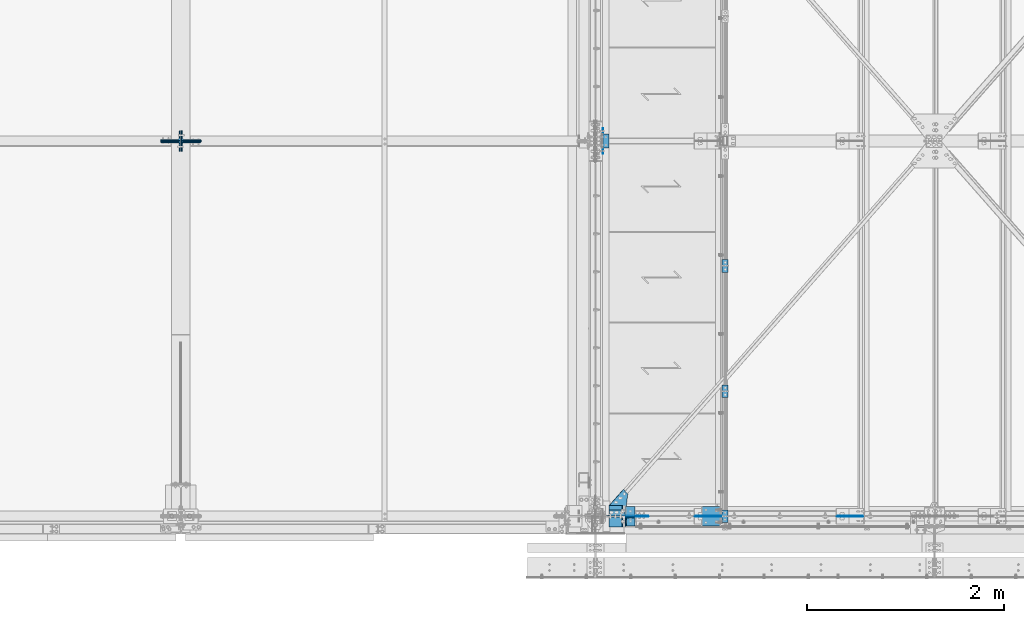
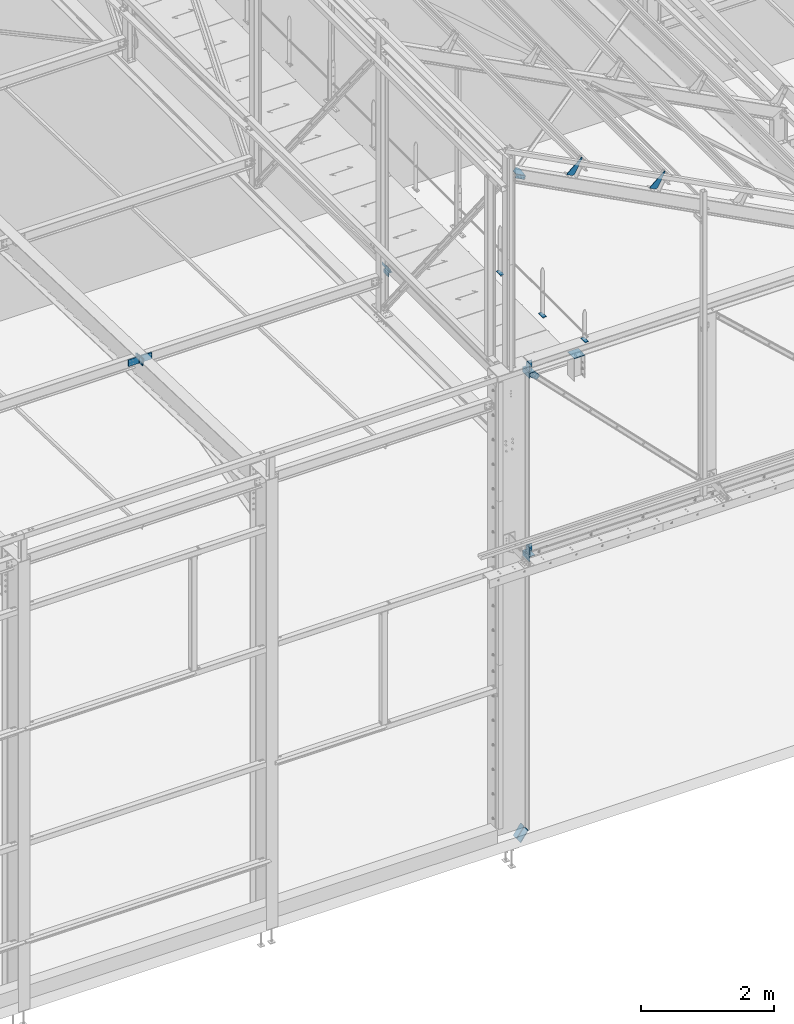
# One storey, part 70 of 362: 14 beams, 7 members, 17 elements without a shape of their own.
"""IFC2X3 building model written with IfcOpenShell, lengths in millimetres."""

from ifc_helpers import new_model, si_unit, frame, origin_with_axes, origin_2d_with_axis, place, context, subcontext, project, spatial, polyline, rectangle, l_section, outline, extrude, boolean, material, type_object, element, aggregate, save


model = new_model("IFC2X3")

# Units and contexts
model_context = context("Model", 3, precision=1e-05, world=origin_with_axes())
body_context = subcontext(model_context, "Body", "Model", "MODEL_VIEW")
ifc_project = project(units=[si_unit("LENGTHUNIT", "METRE", prefix="MILLI"), si_unit("AREAUNIT", "SQUARE_METRE"), si_unit("VOLUMEUNIT", "CUBIC_METRE"), si_unit("MASSUNIT", "GRAM", prefix="KILO"), si_unit("TIMEUNIT", "SECOND"), si_unit("PLANEANGLEUNIT", "RADIAN"), si_unit("SOLIDANGLEUNIT", "STERADIAN"), si_unit("THERMODYNAMICTEMPERATUREUNIT", "DEGREE_CELSIUS"), si_unit("LUMINOUSINTENSITYUNIT", "LUMEN")], contexts=[model_context])

# Site, building, storey
site_placement = place(None, origin_with_axes())
site = spatial("IfcSite", under=ifc_project, at=site_placement, Name="Undefined", CompositionType="ELEMENT")
building_placement = place(site_placement, origin_with_axes())
building = spatial("IfcBuilding", under=site, at=building_placement, Name="Undefined", CompositionType="ELEMENT")
storey_placement = place(building_placement, origin_with_axes())
storey = spatial("IfcBuildingStorey", under=building, at=storey_placement, Name="Undefined", CompositionType="ELEMENT", Elevation=0.0)

# Assembly, beams
assembly_1_placement = place(storey_placement, origin_with_axes())
assembly_1 = element("IfcElementAssembly", 1, at=assembly_1_placement, inside=storey, Name="MAIN COURANTE", AssemblyPlace="NOTDEFINED", PredefinedType="NOTDEFINED")
ifc_material = material(Name="Undefined/S235-E24")
beam_type_1 = type_object("IfcBeamType", Name="PL10*60", PredefinedType="NOTDEFINED")
beam_1_placement = place(assembly_1_placement, frame((13993.9998836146, 65.0000000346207, 8555.00000819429), z_axis=(-1.0, 0.0, 0.0), x_axis=(0.0, -1.0, 0.0)))
beam_1 = element("IfcBeam", 2, at=beam_1_placement, type_object=beam_type_1, material=ifc_material, Name="PLATINE", ObjectType="PL10*60", context=body_context, shape_type="SweptSolid", body=[
    extrude(rectangle(XDim=10.0, YDim=60.0, at=origin_2d_with_axis()), frame((130.0, 0.0, 0.0), z_axis=(-1.0, 0.0, 0.0), x_axis=(0.0, -1.0, 0.0)), (0.0, 0.0, 1.0), 130.0),
])
beam_2_placement = place(assembly_1_placement, frame((13993.9998836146, 1330.00344717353, 8245.00000819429), z_axis=(-1.0, 0.0, 0.0), x_axis=(0.0, -1.0, 0.0)))
beam_2 = element("IfcBeam", 3, at=beam_2_placement, type_object=beam_type_1, material=ifc_material, Name="PLATINE", ObjectType="PL10*60", context=body_context, shape_type="SweptSolid", body=[
    extrude(rectangle(XDim=10.0, YDim=60.0, at=origin_2d_with_axis()), frame((130.0, 0.0, 0.0), z_axis=(-1.0, 0.0, 0.0), x_axis=(0.0, -1.0, 0.0)), (0.0, 0.0, 1.0), 130.0),
])
beam_3_placement = place(assembly_1_placement, frame((13993.9998846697, 2600.00344717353, 8245.00000732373), z_axis=(-1.0, 0.0, 0.0), x_axis=(0.0, -1.0, 0.0)))
beam_3 = element("IfcBeam", 4, at=beam_3_placement, type_object=beam_type_1, material=ifc_material, Name="PLATINE", ObjectType="PL10*60", context=body_context, shape_type="SweptSolid", body=[
    extrude(rectangle(XDim=10.0, YDim=60.0, at=origin_2d_with_axis()), frame((130.0, 0.0, 0.0), z_axis=(-1.0, 0.0, 0.0), x_axis=(0.0, -1.0, 0.0)), (0.0, 0.0, 1.0), 130.0),
])
aggregate(assembly_1, [beam_1, beam_2, beam_3])

# Assembly, beam
assembly_2_placement = place(storey_placement, origin_with_axes())
assembly_2 = element("IfcElementAssembly", 5, at=assembly_2_placement, inside=storey, Name="MONTANT", AssemblyPlace="NOTDEFINED", PredefinedType="NOTDEFINED")
beam_type_2 = type_object("IfcBeamType", Name="PL10*200", PredefinedType="NOTDEFINED")
beam_4_placement = place(assembly_2_placement, frame((13756.4998860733, 0.0, 8354.99525915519), z_axis=(0.0, -1.0, 0.0), x_axis=(1.0, 0.0, 0.0)))
beam_4 = element("IfcBeam", 6, at=beam_4_placement, type_object=beam_type_2, material=ifc_material, Name="PLATINE", ObjectType="PL10*200", context=body_context, shape_type="SweptSolid", body=[
    extrude(rectangle(XDim=10.0, YDim=200.0, at=origin_2d_with_axis()), frame((190.0, 0.0, 0.0), z_axis=(-1.0, 0.0, 0.0), x_axis=(0.0, -1.0, 0.0)), (0.0, 0.0, 1.0), 190.0),
])
aggregate(assembly_2, [beam_4])

assembly_3_placement = place(storey_placement, origin_with_axes())
assembly_3 = element("IfcElementAssembly", 7, at=assembly_3_placement, inside=storey, AssemblyPlace="NOTDEFINED", PredefinedType="NOTDEFINED")
beam_type_3 = type_object("IfcBeamType", Name="L70*7", PredefinedType="NOTDEFINED")
beam_5_placement = place(assembly_3_placement, frame((12781.5082861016, 3730.0, 7915.0), z_axis=(1.0, 0.0, 0.0), x_axis=(0.0, 1.0, 0.0)))
beam_5 = element("IfcBeam", 8, at=beam_5_placement, type_object=beam_type_3, material=ifc_material, Name="ATTACHE", ObjectType="L70*7", context=body_context, shape_type="SweptSolid", body=[
    extrude(l_section(Depth=70.0, Width=70.0, Thickness=7.0, FilletRadius=9.0, EdgeRadius=4.5, at=origin_2d_with_axis()), frame((140.0, 0.0, 0.0), z_axis=(-1.0, 0.0, 0.0), x_axis=(0.0, -1.0, 0.0)), (0.0, 0.0, 1.0), 140.0),
])
aggregate(assembly_3, [beam_5])

assembly_4_placement = place(storey_placement, origin_with_axes())
assembly_4 = element("IfcElementAssembly", 9, at=assembly_4_placement, inside=storey, AssemblyPlace="NOTDEFINED", PredefinedType="NOTDEFINED")
beam_type_4 = type_object("IfcBeamType", Name="TOLE6*196", PredefinedType="NOTDEFINED")
beam_6_placement = place(assembly_4_placement, frame((13007.0677072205, 222.711120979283, 11896.7091363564), z_axis=(0.463528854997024, 6.99999093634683e-09, 0.886081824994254), x_axis=(-0.628485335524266, 0.704921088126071, 0.328774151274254)))
beam_6 = element("IfcBeam", 10, at=beam_6_placement, type_object=beam_type_4, material=ifc_material, Name="GOUSSET", ObjectType="TOLE6*196", context=body_context, shape_type="SweptSolid", body=[
    extrude(outline(polyline([(0.0, 0.0), (70.0, 0.0), (69.999999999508, 228.441986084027), (1.95745384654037, 296.905822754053), (-125.713981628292, 170.020034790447), (0.0, 0.0)])), frame((0.0, 0.0, -3.0), z_axis=(0.0, 0.0, 1.0), x_axis=(1.0, 0.0, 0.0)), (0.0, 0.0, 1.0), 6.0),
])
aggregate(assembly_4, [beam_6])

# Assembly, member
assembly_5_placement = place(storey_placement, origin_with_axes())
assembly_5 = element("IfcElementAssembly", 11, at=assembly_5_placement, inside=storey, AssemblyPlace="NOTDEFINED", PredefinedType="NOTDEFINED")
member_type_1 = type_object("IfcMemberType", Name="L60*6", PredefinedType="NOTDEFINED")
member_1_placement = place(assembly_5_placement, frame((12964.5830699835, 33.4998995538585, 11881.6910838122), z_axis=(0.0, 1.0, 0.0), x_axis=(-0.886081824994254, 0.0, 0.463528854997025)))
member_1 = element("IfcMember", 12, at=member_1_placement, type_object=member_type_1, material=ifc_material, Name="ATTACHE", ObjectType="L60*6", context=body_context, shape_type="SweptSolid", body=[
    extrude(l_section(Depth=60.0, Width=60.0, Thickness=6.0, FilletRadius=8.0, EdgeRadius=4.0, at=origin_2d_with_axis()), frame((180.0, 0.0, 0.0), z_axis=(-1.0, 0.0, 0.0), x_axis=(0.0, -1.0, 0.0)), (0.0, 0.0, 1.0), 180.0),
])
aggregate(assembly_5, [member_1])

# Assembly, beam
assembly_6_placement = place(storey_placement, origin_with_axes())
assembly_6 = element("IfcElementAssembly", 13, at=assembly_6_placement, inside=storey, Name="PANNE SHED", AssemblyPlace="NOTDEFINED", PredefinedType="NOTDEFINED")
beam_type_5 = type_object("IfcBeamType", Name="TOLE8*140", PredefinedType="NOTDEFINED")
beam_7_placement = place(assembly_6_placement, frame((15395.0613651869, 0.0, 11158.7378432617), z_axis=(0.0, -1.0, 0.0), x_axis=(-0.886081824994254, 0.0, 0.463528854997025)))
beam_7 = element("IfcBeam", 14, at=beam_7_placement, type_object=beam_type_5, material=ifc_material, Name="RAIDISSEUR", ObjectType="TOLE8*140", context=body_context, shape_type="SweptSolid", body=[
    extrude(outline(polyline([(0.0, 0.0), (19.9999999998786, -3.63797880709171e-12), (140.000030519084, 299.999999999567), (140.000030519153, 319.999999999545), (30.0000147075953, 319.999999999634), (0.0, 290.0), (0.0, 0.0)])), frame((0.0, 0.0, -4.0), z_axis=(0.0, 0.0, 1.0), x_axis=(1.0, 0.0, 0.0)), (0.0, 0.0, 1.0), 8.0),
])
aggregate(assembly_6, [beam_7])

assembly_7_placement = place(storey_placement, origin_with_axes())
assembly_7 = element("IfcElementAssembly", 15, at=assembly_7_placement, inside=storey, Name="PANNE SHED", AssemblyPlace="NOTDEFINED", PredefinedType="NOTDEFINED")
beam_8_placement = place(assembly_7_placement, frame((13957.7613225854, 0.0, 11910.6201334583), z_axis=(0.0, -1.0, 0.0), x_axis=(-0.886081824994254, 0.0, 0.463528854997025)))
beam_8 = element("IfcBeam", 16, at=beam_8_placement, type_object=beam_type_5, material=ifc_material, Name="RAIDISSEUR", ObjectType="TOLE8*140", context=body_context, shape_type="SweptSolid", body=[
    extrude(outline(polyline([(0.0, 0.0), (19.9999999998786, -3.63797880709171e-12), (140.000030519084, 299.999999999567), (140.000030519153, 319.999999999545), (30.0000147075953, 319.999999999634), (0.0, 290.0), (0.0, 0.0)])), frame((0.0, 0.0, -4.0), z_axis=(0.0, 0.0, 1.0), x_axis=(1.0, 0.0, 0.0)), (0.0, 0.0, 1.0), 8.0),
])
aggregate(assembly_7, [beam_8])

# Assembly, member
assembly_8_placement = place(storey_placement, origin_with_axes())
assembly_8 = element("IfcElementAssembly", 17, at=assembly_8_placement, inside=storey, AssemblyPlace="NOTDEFINED", PredefinedType="NOTDEFINED")
member_type_2 = type_object("IfcMemberType", Name="L200*100*10", PredefinedType="NOTDEFINED")
member_2_placement = place(assembly_8_placement, frame((8375.00000000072, 3854.8649441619, 7888.83616865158), z_axis=(-1.0, 0.0, 0.0), x_axis=(-1.05403257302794e-09, -0.0314112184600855, -0.999506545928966)))
member_2 = element("IfcMember", 18, at=member_2_placement, type_object=member_type_2, material=ifc_material, Name="ATTACHE", ObjectType="L200*100*10", context=body_context, shape_type="SweptSolid", body=[
    extrude(l_section(Depth=200.0, Width=100.0, Thickness=10.0, FilletRadius=15.0, EdgeRadius=7.5, at=origin_2d_with_axis()), frame((120.0, 0.0, 0.0), z_axis=(-1.0, 0.0, 0.0), x_axis=(0.0, -1.0, 0.0)), (0.0, 0.0, 1.0), 120.0),
])
aggregate(assembly_8, [member_2])

assembly_9_placement = place(storey_placement, origin_with_axes())
assembly_9 = element("IfcElementAssembly", 19, at=assembly_9_placement, inside=storey, AssemblyPlace="NOTDEFINED", PredefinedType="NOTDEFINED")
member_3_placement = place(assembly_9_placement, frame((8585.00000000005, 3851.09559799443, 7768.89538313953), z_axis=(1.0, 0.0, 0.0), x_axis=(7.58071938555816e-11, 0.0314107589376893, 0.999506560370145)))
member_3 = element("IfcMember", 20, at=member_3_placement, type_object=member_type_2, material=ifc_material, Name="ATTACHE", ObjectType="L200*100*10", context=body_context, shape_type="SweptSolid", body=[
    extrude(l_section(Depth=200.0, Width=100.0, Thickness=10.0, FilletRadius=15.0, EdgeRadius=7.5, at=origin_2d_with_axis()), frame((120.0, 0.0, 0.0), z_axis=(-1.0, 0.0, 0.0), x_axis=(0.0, -1.0, 0.0)), (0.0, 0.0, 1.0), 120.0),
])
aggregate(assembly_9, [member_3])

assembly_10_placement = place(storey_placement, origin_with_axes())
assembly_10 = element("IfcElementAssembly", 21, at=assembly_10_placement, inside=storey, AssemblyPlace="NOTDEFINED", PredefinedType="NOTDEFINED")
member_4_placement = place(assembly_10_placement, frame((8375.00000000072, 3745.1470422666, 7772.22499933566), z_axis=(-1.0, 0.0, 0.0), x_axis=(7.58071938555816e-11, 0.0314107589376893, 0.999506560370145)))
member_4 = element("IfcMember", 22, at=member_4_placement, type_object=member_type_2, material=ifc_material, Name="ATTACHE", ObjectType="L200*100*10", context=body_context, shape_type="SweptSolid", body=[
    extrude(l_section(Depth=200.0, Width=100.0, Thickness=10.0, FilletRadius=15.0, EdgeRadius=7.5, at=origin_2d_with_axis()), frame((120.0, 0.0, 0.0), z_axis=(-1.0, 0.0, 0.0), x_axis=(0.0, -1.0, 0.0)), (0.0, 0.0, 1.0), 120.0),
])
aggregate(assembly_10, [member_4])

assembly_11_placement = place(storey_placement, origin_with_axes())
assembly_11 = element("IfcElementAssembly", 23, at=assembly_11_placement, inside=storey, AssemblyPlace="NOTDEFINED", PredefinedType="NOTDEFINED")
member_5_placement = place(assembly_11_placement, frame((8585.00000000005, 3748.91638842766, 7892.16578484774), z_axis=(1.0, 0.0, 0.0), x_axis=(-1.05403257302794e-09, -0.0314112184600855, -0.999506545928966)))
member_5 = element("IfcMember", 24, at=member_5_placement, type_object=member_type_2, material=ifc_material, Name="ATTACHE", ObjectType="L200*100*10", context=body_context, shape_type="SweptSolid", body=[
    extrude(l_section(Depth=200.0, Width=100.0, Thickness=10.0, FilletRadius=15.0, EdgeRadius=7.5, at=origin_2d_with_axis()), frame((120.0, 0.0, 0.0), z_axis=(-1.0, 0.0, 0.0), x_axis=(0.0, -1.0, 0.0)), (0.0, 0.0, 1.0), 120.0),
])
aggregate(assembly_11, [member_5])

# Assembly, beam
assembly_12_placement = place(storey_placement, origin_with_axes())
assembly_12 = element("IfcElementAssembly", 25, at=assembly_12_placement, inside=storey, AssemblyPlace="NOTDEFINED", PredefinedType="NOTDEFINED")
beam_type_6 = type_object("IfcBeamType", Name="TOLE6*60", PredefinedType="NOTDEFINED")
beam_9_placement = place(assembly_12_placement, frame((12755.0001144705, 3670.0, 7985.0), z_axis=(-1.0, 0.0, 0.0), x_axis=(0.0, 0.0, 1.0)))
beam_9 = element("IfcBeam", 26, at=beam_9_placement, type_object=beam_type_6, material=ifc_material, Name="PLATINE", ObjectType="TOLE6*60", context=body_context, shape_type="SweptSolid", body=[
    extrude(outline(polyline([(0.0, 0.0), (60.0, 0.0), (60.0, 260.0), (0.0, 260.0), (0.0, 0.0)])), frame((0.0, 0.0, -3.0), z_axis=(0.0, 0.0, 1.0), x_axis=(1.0, 0.0, 0.0)), (0.0, 0.0, 1.0), 6.0),
])
aggregate(assembly_12, [beam_9])

assembly_13_placement = place(storey_placement, origin_with_axes())
assembly_13 = element("IfcElementAssembly", 27, at=assembly_13_placement, inside=storey, AssemblyPlace="NOTDEFINED", PredefinedType="NOTDEFINED")
beam_type_7 = type_object("IfcBeamType", Name="L100*10", PredefinedType="NOTDEFINED")
beam_10_placement = place(assembly_13_placement, frame((13029.9974444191, -53.500000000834, 8520.00002208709), z_axis=(1.0, 0.0, 0.0), x_axis=(0.0, 0.0, -1.0)))
beam_10 = element("IfcBeam", 28, at=beam_10_placement, type_object=beam_type_7, material=ifc_material, Name="ATTACHE", ObjectType="L100*10", context=body_context, shape_type="SweptSolid", body=[
    extrude(l_section(Depth=100.0, Width=100.0, Thickness=10.0, FilletRadius=12.0, EdgeRadius=6.0, at=origin_2d_with_axis()), frame((130.0, 0.0, 0.0), z_axis=(-1.0, 0.0, 0.0), x_axis=(0.0, -1.0, 0.0)), (0.0, 0.0, 1.0), 130.0),
])
aggregate(assembly_13, [beam_10])

assembly_14_placement = place(storey_placement, origin_with_axes())
assembly_14 = element("IfcElementAssembly", 29, at=assembly_14_placement, inside=storey, AssemblyPlace="NOTDEFINED", PredefinedType="NOTDEFINED")
beam_11_placement = place(assembly_14_placement, frame((13029.9982003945, 100.000768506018, 8309.99916813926), z_axis=(0.0, 0.0, -1.0), x_axis=(1.52899999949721e-05, -0.999999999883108, 0.0)))
beam_11 = element("IfcBeam", 30, at=beam_11_placement, type_object=beam_type_7, material=ifc_material, Name="ATTACHE", ObjectType="L100*10", context=body_context, shape_type="SweptSolid", body=[
    extrude(l_section(Depth=100.0, Width=100.0, Thickness=10.0, FilletRadius=12.0, EdgeRadius=6.0, at=origin_2d_with_axis()), frame((200.0, 0.0, 0.0), z_axis=(-1.0, 0.0, 0.0), x_axis=(0.0, -1.0, 0.0)), (0.0, 0.0, 1.0), 200.0),
])

assembly_15_placement = place(storey_placement, origin_with_axes())
assembly_15 = element("IfcElementAssembly", 31, at=assembly_15_placement, inside=storey, AssemblyPlace="NOTDEFINED", PredefinedType="NOTDEFINED")
beam_12_placement = place(assembly_15_placement, frame((13029.9974444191, -53.500000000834, 5160.00085394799), z_axis=(1.0, 0.0, 0.0), x_axis=(0.0, 0.0, -1.0)))
beam_12 = element("IfcBeam", 32, at=beam_12_placement, type_object=beam_type_7, material=ifc_material, Name="ATTACHE", ObjectType="L100*10", context=body_context, shape_type="SweptSolid", body=[
    extrude(l_section(Depth=100.0, Width=100.0, Thickness=10.0, FilletRadius=12.0, EdgeRadius=6.0, at=origin_2d_with_axis()), frame((130.0, 0.0, 0.0), z_axis=(-1.0, 0.0, 0.0), x_axis=(0.0, -1.0, 0.0)), (0.0, 0.0, 1.0), 130.0),
])
aggregate(assembly_15, [beam_12])

assembly_16_placement = place(storey_placement, origin_with_axes())
assembly_16 = element("IfcElementAssembly", 33, at=assembly_16_placement, inside=storey, AssemblyPlace="NOTDEFINED", PredefinedType="NOTDEFINED")
beam_13_placement = place(assembly_16_placement, frame((13029.9982003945, 100.000768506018, 4950.00000000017), z_axis=(0.0, 0.0, -1.0), x_axis=(1.52899999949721e-05, -0.999999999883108, 0.0)))
beam_13 = element("IfcBeam", 34, at=beam_13_placement, type_object=beam_type_7, material=ifc_material, Name="ATTACHE", ObjectType="L100*10", context=body_context, shape_type="SweptSolid", body=[
    extrude(l_section(Depth=100.0, Width=100.0, Thickness=10.0, FilletRadius=12.0, EdgeRadius=6.0, at=origin_2d_with_axis()), frame((200.0, 0.0, 0.0), z_axis=(-1.0, 0.0, 0.0), x_axis=(0.0, -1.0, 0.0)), (0.0, 0.0, 1.0), 200.0),
])
aggregate(assembly_16, [beam_13])

# Beam
beam_type_8 = type_object("IfcBeamType", Name="TOLE8*126", PredefinedType="NOTDEFINED")
beam_14_placement = place(assembly_14_placement, frame((12989.9982003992, 0.0, 8259.99916813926), z_axis=(0.0, -1.0, 0.0), x_axis=(0.773288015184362, 0.0, -0.634054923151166)))
beam_14 = element("IfcBeam", 35, at=beam_14_placement, type_object=beam_type_8, material=ifc_material, Name="GOUSSET", ObjectType="TOLE8*126", context=body_context, shape_type="SweptSolid", body=[
    extrude(outline(polyline([(0.0, 0.0), (223.073577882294, 1.34605215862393e-10), (231.39497375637, 79.5660400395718), (12.5309782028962, 126.660865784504), (-41.5991810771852, 82.2770228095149), (-44.383843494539, 54.1301636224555), (0.0, 0.0)])), frame((0.0, 0.0, -4.0), z_axis=(0.0, 0.0, 1.0), x_axis=(1.0, 0.0, 0.0)), (0.0, 0.0, 1.0), 8.0),
])

aggregate(assembly_14, [beam_14, beam_11])

# Assembly, members
assembly_17_placement = place(storey_placement, origin_with_axes())
assembly_17 = element("IfcElementAssembly", 36, at=assembly_17_placement, inside=storey, Name="POTEAU", AssemblyPlace="NOTDEFINED", PredefinedType="NOTDEFINED")
member_type_3 = type_object("IfcMemberType", Name="PL15*103.5", PredefinedType="NOTDEFINED")
member_6_placement = place(assembly_17_placement, frame((12954.8763336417, 58.25, 4.33415056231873), z_axis=(0.0, 1.0, 0.0), x_axis=(-0.577886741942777, 0.0, -0.816116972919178)))
member_6 = element("IfcMember", 37, at=member_6_placement, type_object=member_type_3, material=ifc_material, Name="PLATINE", ObjectType="PL15*103.5", context=body_context, shape_type="CSG", body=[
    boolean("DIFFERENCE", extrude(rectangle(XDim=15.0, YDim=103.5, at=origin_2d_with_axis()), frame((226.683191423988, -3.77503347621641e-14, 0.0), z_axis=(-1.0, 0.0, 0.0), x_axis=(0.0, -1.0, 0.0)), (0.0, 0.0, 1.0), 226.68), extrude(outline(polyline([(0.0, 0.0), (19.9999999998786, -3.63797880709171e-12), (19.9999999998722, 19.9999999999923), (0.0, 0.0)])), frame((20.0000405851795, -10.4997294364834, -51.75), z_axis=(-1.35286660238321e-05, 0.999999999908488, 0.0), x_axis=(-0.999999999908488, -1.35286660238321e-05, 0.0)), (0.0, 0.0, 1.0), 21.0)),
])
member_7_placement = place(assembly_17_placement, frame((12954.8763336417, -58.25, 4.33415056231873), z_axis=(0.0, 1.0, 0.0), x_axis=(-0.577886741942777, 0.0, -0.816116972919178)))
member_7 = element("IfcMember", 38, at=member_7_placement, type_object=member_type_3, material=ifc_material, Name="PLATINE", ObjectType="PL15*103.5", context=body_context, shape_type="CSG", body=[
    boolean("DIFFERENCE", extrude(rectangle(XDim=15.0, YDim=103.5, at=origin_2d_with_axis()), frame((226.683191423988, -3.77503347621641e-14, 0.0), z_axis=(-1.0, 0.0, 0.0), x_axis=(0.0, -1.0, 0.0)), (0.0, 0.0, 1.0), 226.68), extrude(outline(polyline([(0.0, 0.0), (28.2842712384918, -5.68070390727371e-09), (14.1421356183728, 14.1421356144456), (0.0, 0.0)])), frame((20.0000405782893, -10.4997294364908, 51.7500000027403), z_axis=(-1.35286660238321e-05, 0.999999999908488, 0.0), x_axis=(-0.707106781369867, -9.56587506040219e-06, -0.707106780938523)), (0.0, 0.0, 1.0), 21.0)),
])
aggregate(assembly_17, [member_6, member_7])

save(model, "model.ifc")
